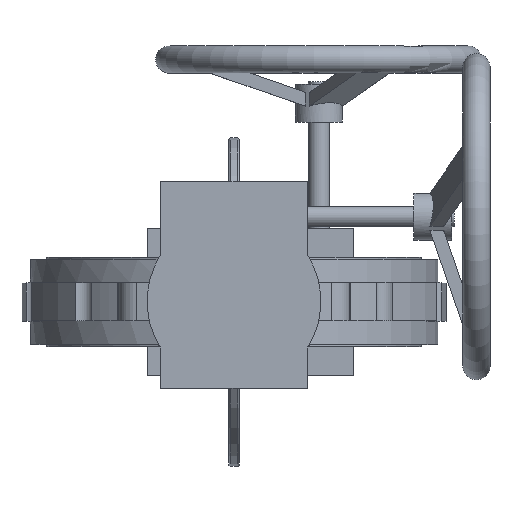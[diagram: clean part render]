
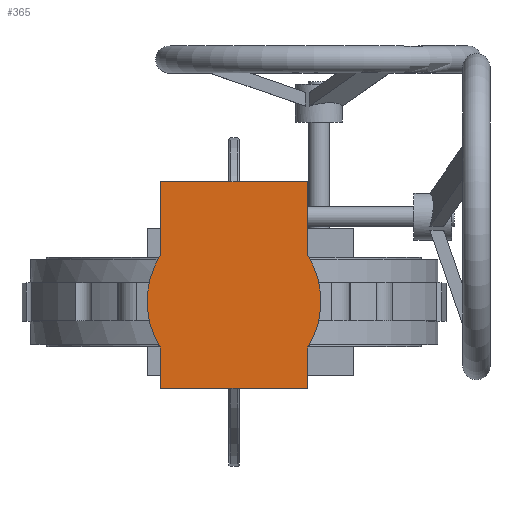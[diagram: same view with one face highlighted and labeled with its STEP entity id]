
A CAD part, top view. The second image highlights one B-rep face of the part: STEP entity #365.
In plain terms, the highlighted planar face has unit normal (0, 0, 1) as drawn and (0, 0, -1) by its records, which use the part's own axes.
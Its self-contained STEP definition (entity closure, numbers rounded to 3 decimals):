
#365 = ADVANCED_FACE( '', ( #954 ), #955, .F. );
#954 = FACE_OUTER_BOUND( '', #1935, .T. );
#955 = PLANE( '', #1936 );
#1935 = EDGE_LOOP( '', ( #4428, #4429, #4430, #4431, #4432, #4433, #4434, #4435 ) );
#1936 = AXIS2_PLACEMENT_3D( '', #4436, #4437, #4438 );
#4428 = ORIENTED_EDGE( '', *, *, #7027, .F. );
#4429 = ORIENTED_EDGE( '', *, *, #7028, .F. );
#4430 = ORIENTED_EDGE( '', *, *, #7029, .F. );
#4431 = ORIENTED_EDGE( '', *, *, #7030, .F. );
#4432 = ORIENTED_EDGE( '', *, *, #7031, .F. );
#4433 = ORIENTED_EDGE( '', *, *, #7032, .F. );
#4434 = ORIENTED_EDGE( '', *, *, #7033, .F. );
#4435 = ORIENTED_EDGE( '', *, *, #7034, .F. );
#4436 = CARTESIAN_POINT( '', ( 0., 0., 0. ) );
#4437 = DIRECTION( '', ( 0., 0., 1. ) );
#4438 = DIRECTION( '', ( 1., 0., 0. ) );
#7027 = EDGE_CURVE( '', #8084, #8085, #8086, .T. );
#7028 = EDGE_CURVE( '', #8087, #8084, #8088, .T. );
#7029 = EDGE_CURVE( '', #8089, #8087, #8090, .T. );
#7030 = EDGE_CURVE( '', #8091, #8089, #8092, .T. );
#7031 = EDGE_CURVE( '', #8093, #8091, #8094, .T. );
#7032 = EDGE_CURVE( '', #8095, #8093, #8096, .T. );
#7033 = EDGE_CURVE( '', #8097, #8095, #8098, .T. );
#7034 = EDGE_CURVE( '', #8085, #8097, #8099, .T. );
#8084 = VERTEX_POINT( '', #10401 );
#8085 = VERTEX_POINT( '', #10402 );
#8086 = CIRCLE( '', #10403, 80. );
#8087 = VERTEX_POINT( '', #10404 );
#8088 = LINE( '', #10405, #10406 );
#8089 = VERTEX_POINT( '', #10407 );
#8090 = LINE( '', #10408, #10409 );
#8091 = VERTEX_POINT( '', #10410 );
#8092 = LINE( '', #10411, #10412 );
#8093 = VERTEX_POINT( '', #10413 );
#8094 = CIRCLE( '', #10414, 80. );
#8095 = VERTEX_POINT( '', #10415 );
#8096 = LINE( '', #10416, #10417 );
#8097 = VERTEX_POINT( '', #10418 );
#8098 = LINE( '', #10419, #10420 );
#8099 = LINE( '', #10421, #10422 );
#10401 = CARTESIAN_POINT( '', ( -42.939, -67.5, 0. ) );
#10402 = CARTESIAN_POINT( '', ( 42.939, -67.5, 0. ) );
#10403 = AXIS2_PLACEMENT_3D( '', #15791, #15792, #15793 );
#10404 = CARTESIAN_POINT( '', ( -80., -67.5, 0. ) );
#10405 = CARTESIAN_POINT( '', ( -80., -67.5, 0. ) );
#10406 = VECTOR( '', #15794, 1000. );
#10407 = CARTESIAN_POINT( '', ( -80., 67.5, 0. ) );
#10408 = CARTESIAN_POINT( '', ( -80., 67.5, 0. ) );
#10409 = VECTOR( '', #15795, 1000. );
#10410 = CARTESIAN_POINT( '', ( -42.939, 67.5, 0. ) );
#10411 = CARTESIAN_POINT( '', ( -42.939, 67.5, 0. ) );
#10412 = VECTOR( '', #15796, 1000. );
#10413 = CARTESIAN_POINT( '', ( 42.939, 67.5, 0. ) );
#10414 = AXIS2_PLACEMENT_3D( '', #15797, #15798, #15799 );
#10415 = CARTESIAN_POINT( '', ( 110., 67.5, 0. ) );
#10416 = CARTESIAN_POINT( '', ( 110., 67.5, 0. ) );
#10417 = VECTOR( '', #15800, 1000. );
#10418 = CARTESIAN_POINT( '', ( 110., -67.5, 0. ) );
#10419 = CARTESIAN_POINT( '', ( 110., -67.5, 0. ) );
#10420 = VECTOR( '', #15801, 1000. );
#10421 = CARTESIAN_POINT( '', ( 42.939, -67.5, 0. ) );
#10422 = VECTOR( '', #15802, 1000. );
#15791 = CARTESIAN_POINT( '', ( 0., 0., 0. ) );
#15792 = DIRECTION( '', ( 0., 0., 1. ) );
#15793 = DIRECTION( '', ( 1., 0., 0. ) );
#15794 = DIRECTION( '', ( 1., 0., 0. ) );
#15795 = DIRECTION( '', ( 0., -1., 0. ) );
#15796 = DIRECTION( '', ( -1., 0., 0. ) );
#15797 = CARTESIAN_POINT( '', ( 0., 0., 0. ) );
#15798 = DIRECTION( '', ( 0., 0., 1. ) );
#15799 = DIRECTION( '', ( 1., 0., 0. ) );
#15800 = DIRECTION( '', ( -1., 0., 0. ) );
#15801 = DIRECTION( '', ( 0., 1., 0. ) );
#15802 = DIRECTION( '', ( 1., 0., 0. ) );
